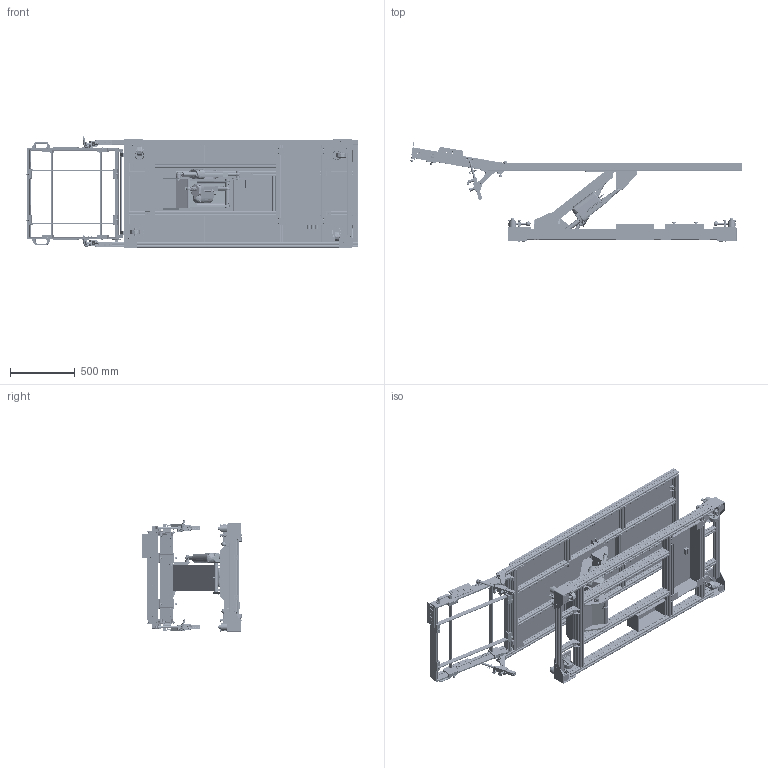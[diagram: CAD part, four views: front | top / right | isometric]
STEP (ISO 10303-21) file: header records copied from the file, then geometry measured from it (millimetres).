
FILE_DESCRIPTION (( 'STEP AP214' ), '1' );
FILE_NAME ('système tangible.STEP', '2020-02-21T09:51:52', ( '' ), ( '' ), 'SwSTEP 2.0', 'SolidWorks 2014', '' );
FILE_SCHEMA (( 'AUTOMOTIVE_DESIGN' ));
Length unit declared in the file: millimetre
Products named in the file (118): 15060-Vis CHc-_vis CHc M 6 X  16; 15060-M-01074-Interface ar verin_AA - DEFAULT; 15060-NLM-Vis CHc rectifiÚe a Úpaulement Ï16 L40 M12 - 07534-16x40_AA - DEFAULT; 15060-M-01054-Barre glissiere_AA - DEFAULT; 15060-NLM-Ens guidage Drylin N - 1_Default; 15060-M-01075-Broche M12 ModifiÚe - 27810-120451; 15060-M-01064-Axe pivot_AA - DEFAULT; 15060-M-01051-Plaquette sur glissiere - SYM_AA - DEFAULT; 15060-M-01032-Porte pivot_AA - DEFAULT; 15060-M-01035-Pied porte capteur_AA - DEFAULT; 15060-Ecrou-_24 - Ecrou Hm M16; 15060-M-01080-Rondelle anti rotation_AA - DEFAULT; 15060-M-01043-Bride de barre_AA - DEFAULT; 15060-M-01024-Cale reglet_AA - DEFAULT; 15060-M-01055-Glissiere_AA - DEFAULT; 15060-NLM-Rail - 21230-2730 X Lgr.; 15060-Verin - LA36 - Course 100 mm; 15060-Rondelle-_Rondelle TresLarge LL 8; 15060-Vis CHc-_vis CHc M 5 X   8; 15060-M-01002-Ens cadre_Default; 15060-NLM-Palier flottant - 21230-2711; 15060-NLM-Doigt d''''indexage acier Ï6 avec contre ecrou M12x1.5  - 03089-2206_AA - DEFAULT; 15060-NLM-Embout a rotule M16 Pas a droite - 27627-16; 15060-M-01052-Entretoise pour axe_AA - DEFAULT; 15060-M-01041-Plaquette sur glissiere_AA - DEFAULT; 15060-M-01003-Ens structure plateau_Default; 15060-Vis CHc-_vis CHc M 4 X  10; 15060-NLM-Poignee de manut noir mat - 06904-1120081; 15060-NLM-Embase ﾏ 60 - 27801-20601; table; 15060-Vis CHc-_vis CHc M 4 X  12; 15060-M-01038-Plat bord de cadre 2_AA - DEFAULT; 15060-M-01079-Plaque a trous_AA - DEFAULT; 15060-M-01013-Ens Coffret electrique sous table_Default; entraxe Sym; 15060-Ecrou-_22 - Ecrou Hm M12; 15060-Vis CHc-_vis CHc M 4 X  16; 15060-M-01021-Plateau en profil alu 40x40_AA - DEFAULT_Brut d''''usinage_; 15060-Bouton vert-_AA - DEFAULT; 15060-M-01068-Glissiere - SYM_AA - DEFAULT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
Assembly tree (223 placements, depth 5):
  système tangible
    base
      15060-M-01070-Plaquette porte coffret elect._AA - DEFAULT  x4
      15060-M-01066-Protection capteur pied_AA - DEFAULT  x2
      15060-M-01067-Protection capteur pied - SYM_AA - DEFAULT  x2
      15060-M-01009-Ens chassis inf._Default
        15060-ITEM-Kit Equerre 8 40x40 Zn - 0.0.411.15_AA - DEFAULT  x4
        15060-M-01023-Chassis alu partie basse_AA - DEFAULT_Brut d''''usinage_
      15060-Coffret elect - 300 X 150 H 150_AA - DEFAULT
      15060-M-01013-Ens Coffret electrique sous table_Default
        15060-Coffret elect - 600 X 300 H 150_AA - DEFAULT
        15060-Bouton rouge-_AA - DEFAULT
        15060-Bouton vert-_AA - DEFAULT
      15060-M-01006-Ens pied escamotable_Default  x4
        15060-NLM-Embase ﾏ 60 - 27801-20601
        15060-NLM-Doigt d''''indexage acier Ï6 avec contre ecrou M12x1.5  - 03089-2206_AA - DEFAULT
        15060-M-01035-Pied porte capteur_AA - DEFAULT
        15060-M-01075-Broche M12 ModifiÚe - 27810-120451
        15060-Vis CHc-_vis CHc M 6 X  16
        15060-M-01039-Plaque roulette_AA - DEFAULT
        15060-M-01063-Rondelle entretoise_AA - DEFAULT
        15060-Vis CHc-_vis CHc M 5 X  20
        15060-NLM-Verin a levier - Rot a droite - traction - 04410-35
        15060-Vis CHc-_vis CHc M 8 X  25
        15060-M-01069-Bride doigt d''''indexage_AA - DEFAULT
        15060-MEAS-Capteur d''''effort 1000 N - FN 9620_AA - DEFAULT
        15060-NLM-Roulette pivotante F 200 KG - 95034-07532
        15060-Vis CHc-_vis CHc M 8 X  12
        15060-Rondelle-_Rondelle Large L 6
      socle de base
        15060-M-01026-Chape basse_AA - DEFAULT_Brut d''''usinage_
        15060-Rondelle-_Rondelle Etroite Z 12
        15060-Ecrou-_22 - Ecrou Hm M12
        15060-M-01052-Entretoise pour axe_AA - DEFAULT  x4
        15060-Rondelle-_Rondelle TresLarge LL 8
        15060-M-01080-Rondelle anti rotation_AA - DEFAULT  x2
        15060-M-01064-Axe pivot_AA - DEFAULT
        15060-NLM-Vis CHc rectifiÚe a Úpaulement Ï16 L40 M12 - 07534-16x40_AA - DEFAULT
        15060-Vis CHc-_vis CHc M 8 X  12
        15060-M-01081-Axe court_AA - DEFAULT
    table
      15060-M-01014-Ens plateau_Default
        15060-M-01065-Porte pivot - SYM_AA - DEFAULT
        15060-M-01072-Bloc Rapporteur angulaire_AA - DEFAULT
        15060-M-01034-Axe pivot_AA - DEFAULT
        15060-MC-Coussinet lisse Cyl Ï12-14x10 - C3-152-12 14 10_AA - DEFAULT  x2
        15060-Rondelle-_Rondelle TresLarge LL 5
        15060-M-01022-Plaque sup plateau_AA - DEFAULT
        15060-M-01003-Ens structure plateau_Default
          15060-ITEM-Kit Equerre 8 40x40 Zn - 0.0.411.15_AA - DEFAULT  x8
          15060-ITEM-Kit Equerre 8 80x80 Zn - 0.0.411.32_AA - DEFAULT  x2
          15060-M-01021-Plateau en profil alu 40x40_AA - DEFAULT_Brut d''''usinage_
        15060-Vis CHc-_vis CHc M 5 X   8
        15060-M-01024-Cale reglet_AA - DEFAULT
        15060-M-01032-Porte pivot_AA - DEFAULT
        15060-M-01082-Axe pivot avt_AA - DEFAULT  x2
        socle de table
          15060-Rondelle-_Rondelle TresLarge LL 6
          15060-M-01052-Entretoise pour axe_AA - DEFAULT  x2
          15060-Ecrou-_22 - Ecrou Hm M12
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Bounding box: 2559.69 x 767.13 x 862.21 mm (x, y, z)
Volume: 75543618.4 mm3; surface area: 17431662.3 mm2
Topology: 355 solids, 373 shells, 18510 faces, 50001 edges, 32315 vertices
Faces by surface type: plane 8556, cylinder 7166, cone 1246, bspline 966, torus 518, sphere 58
Entity records: 432532 total; most frequent: CARTESIAN_POINT 115995, ORIENTED_EDGE 46844, DIRECTION 43305, EDGE_CURVE 23422, AXIS2_PLACEMENT_3D 15578, VERTEX_POINT 15255, LINE 12149, VECTOR 12149
